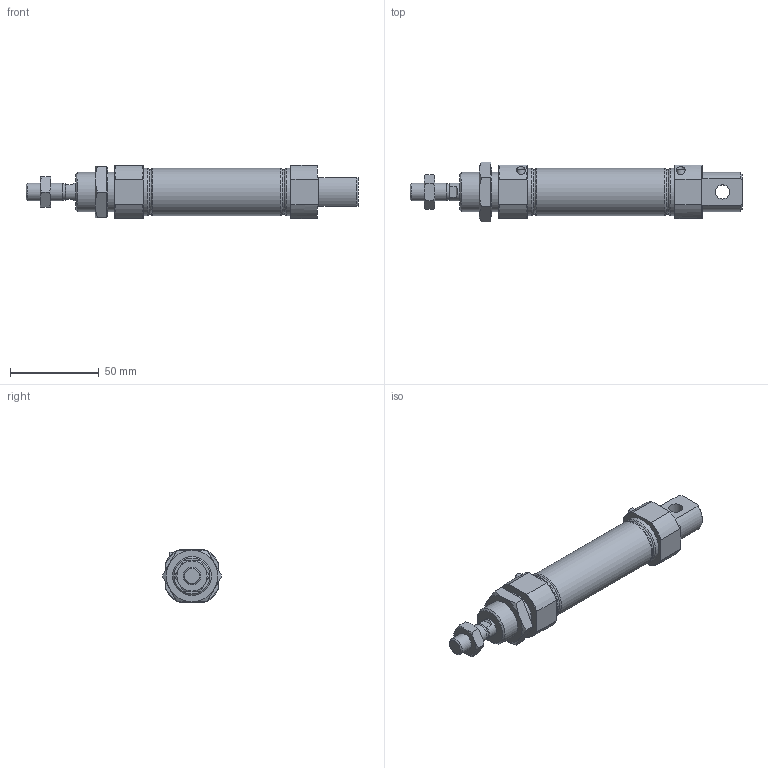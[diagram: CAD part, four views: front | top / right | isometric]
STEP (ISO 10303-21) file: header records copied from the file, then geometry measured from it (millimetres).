
FILE_DESCRIPTION(/* description */ ('STEP AP203'),/* implementation_level */ '2;1');
FILE_NAME(/* name */ 'IAC25X50-0-S()(0)',/* time_stamp */ '2026-05-17T11:47:16+02:00',/* author */ ('License CC BY-ND 4.0'),/* organization */ ('CADENAS'),/* preprocessor_version */ 'ST-DEVELOPER v20',/* originating_system */ 'PARTsolutions',/* authorisation */ ' ');
FILE_SCHEMA (('CONFIG_CONTROL_DESIGN'));
Length unit declared in the file: millimetre
Products named in the file (3): IAC25X50-0-S()(0); C25X50-CA-S()_ia_body; C25X50-0_rod
Assembly tree (2 placements, depth 2):
  IAC25X50-0-S()(0)
    C25X50-CA-S()_ia_body
    C25X50-0_rod
Bounding box: 187 x 33.49 x 30 mm (x, y, z)
Volume: 68957.8 mm3; surface area: 31446.6 mm2
Topology: 2 solids, 2 shells, 148 faces, 341 edges, 216 vertices
Faces by surface type: plane 63, cone 47, cylinder 32, torus 6
Full cylindrical faces by diameter (mm): 2 x1, 4.5 x2, 5 x2, 8 x1, 8.566 x2, 9.2 x1, 10 x5, 22 x2, 25 x2, 26.5 x3, 28 x1
Entity records: 4135 total; most frequent: CARTESIAN_POINT 947, DIRECTION 644, ORIENTED_EDGE 604, EDGE_CURVE 302, AXIS2_PLACEMENT_3D 277, VERTEX_POINT 210, EDGE_LOOP 202, FACE_BOUND 202
